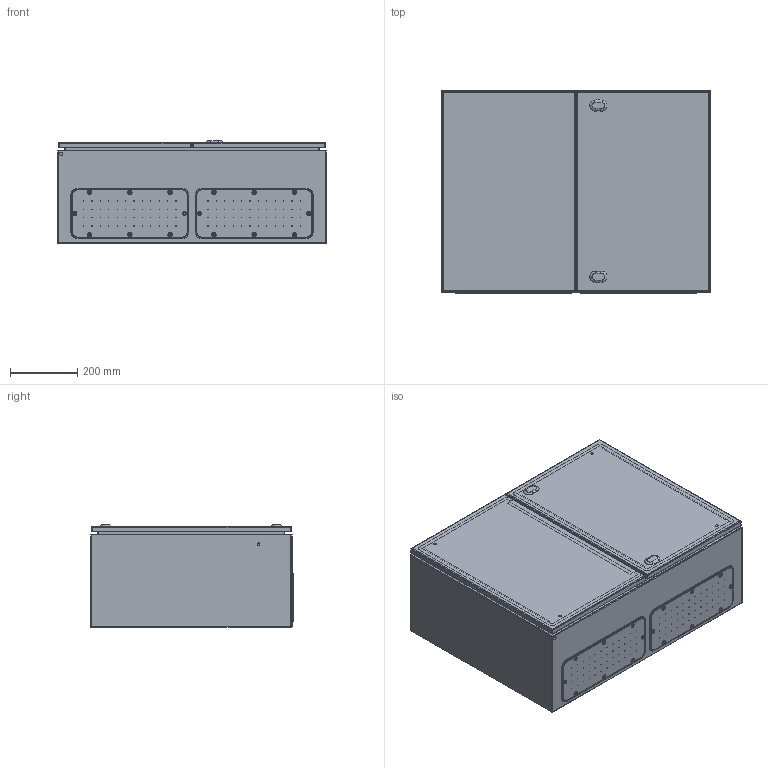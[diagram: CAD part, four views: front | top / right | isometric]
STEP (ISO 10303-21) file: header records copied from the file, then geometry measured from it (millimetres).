
FILE_DESCRIPTION(/* description */ ('STEP AP214'),/* implementation_level */ '2;1');
FILE_NAME(/* name */ 'EC080630-LOD400',/* time_stamp */ '2025-08-01T14:13:43+02:00',/* author */ ('License CC BY-ND 4.0'),/* organization */ ('CADENAS'),/* preprocessor_version */ 'ST-DEVELOPER v19.3',/* originating_system */ 'PARTsolutions',/* authorisation */ ' ');
FILE_SCHEMA (('AUTOMOTIVE_DESIGN {1 0 10303 214 3 1 1}'));
Length unit declared in the file: millimetre
Products named in the file (6): EC080630-LOD400; EC080630-LOD400_cabinet; EC080630-LOD400_door_l; EC080630-LOD400_door_r; EC080630-LOD400_bottomplate; EC080630-LOD400_plate
Assembly tree (6 placements, depth 2):
  EC080630-LOD400
    EC080630-LOD400_cabinet
    EC080630-LOD400_door_l
    EC080630-LOD400_door_r
    EC080630-LOD400_bottomplate  x2
    EC080630-LOD400_plate
Bounding box: 800 x 604 x 305 mm (x, y, z)
Volume: 4086642.8 mm3; surface area: 4903355.9 mm2
Topology: 6 solids, 6 shells, 906 faces, 2204 edges, 1442 vertices
Faces by surface type: plane 379, cylinder 359, torus 86, cone 82
Full cylindrical faces by diameter (mm): 1 x96, 4.5 x84, 5.5 x12, 6 x6, 7 x4, 8 x14, 10 x10, 14 x4
Entity records: 20359 total; most frequent: DIRECTION 3656, CARTESIAN_POINT 3315, ORIENTED_EDGE 2980, EDGE_CURVE 1490, AXIS2_PLACEMENT_3D 1449, EDGE_LOOP 1268, FACE_BOUND 1268, VERTEX_POINT 1108
